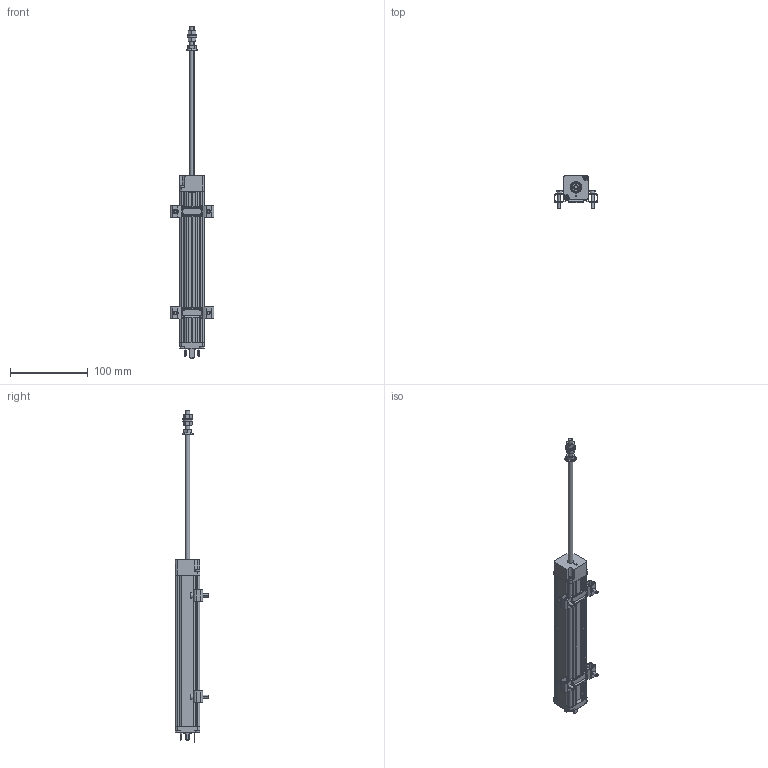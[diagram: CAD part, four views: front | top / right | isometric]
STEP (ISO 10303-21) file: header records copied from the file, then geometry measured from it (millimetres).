
FILE_DESCRIPTION (( 'STEP AP214' ), '1' );
FILE_NAME ('LWH_150.STEP', '2008-11-06T11:41:07', ( 'novotechnik' ), ( 'novotechnik' ), 'SwSTEP 2.0', 'SolidWorks 2008', '' );
FILE_SCHEMA (( 'AUTOMOTIVE_DESIGN' ));
Length unit declared in the file: millimetre
Products named in the file (4): LWH_150_-_Schubstange_Standard; LWH_150_-_Gehaeuse_Standard; LWH_-_Klammer_Standard; LWH_150
Assembly tree (4 placements, depth 2):
  LWH_150
    LWH_150_-_Schubstange_Standard
    LWH_-_Klammer_Standard  x2
    LWH_150_-_Gehaeuse_Standard
Bounding box: 56 x 43.08 x 426 mm (x, y, z)
Volume: 211308.2 mm3; surface area: 63261.9 mm2
Topology: 35 solids, 35 shells, 1066 faces, 2743 edges, 1770 vertices
Faces by surface type: plane 501, cylinder 392, cone 114, bspline 37, torus 22
Entity records: 39859 total; most frequent: CARTESIAN_POINT 7393, ORIENTED_EDGE 4638, DIRECTION 4515, EDGE_CURVE 2319, AXIS2_PLACEMENT_3D 1590, VERTEX_POINT 1500, VECTOR 1335, LINE 1335
